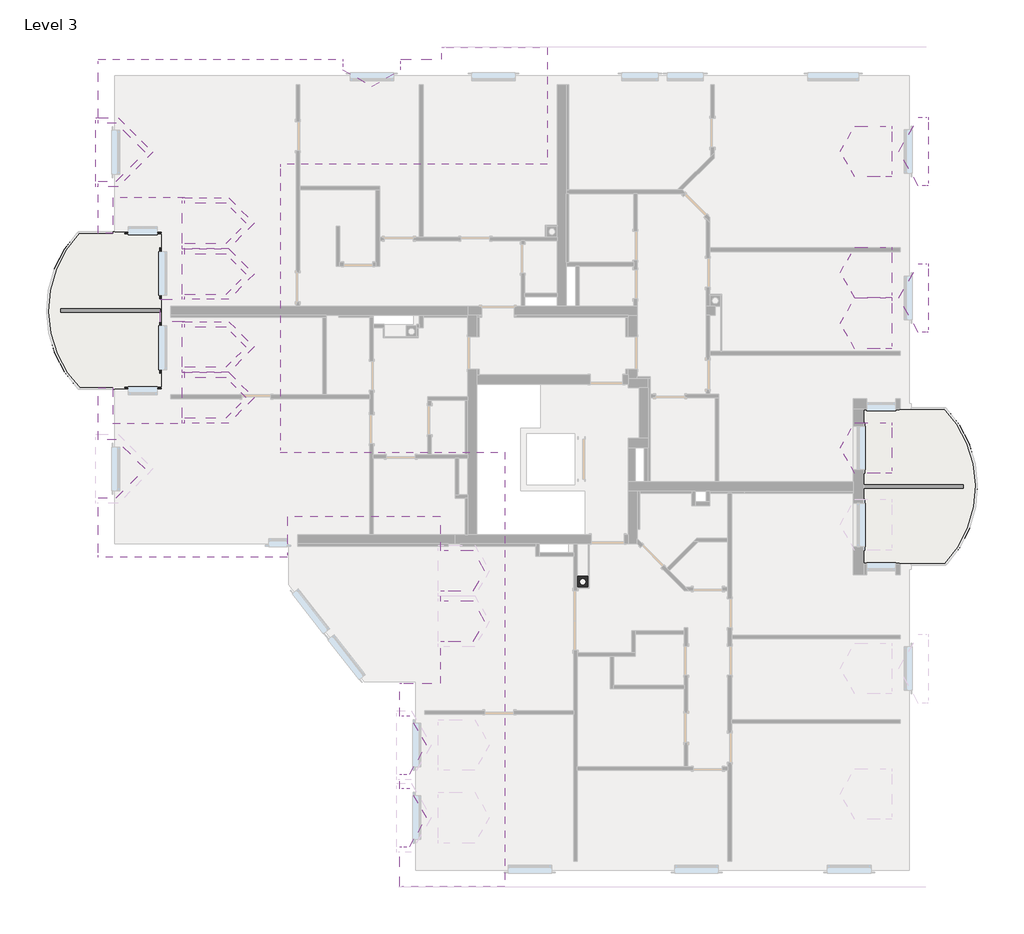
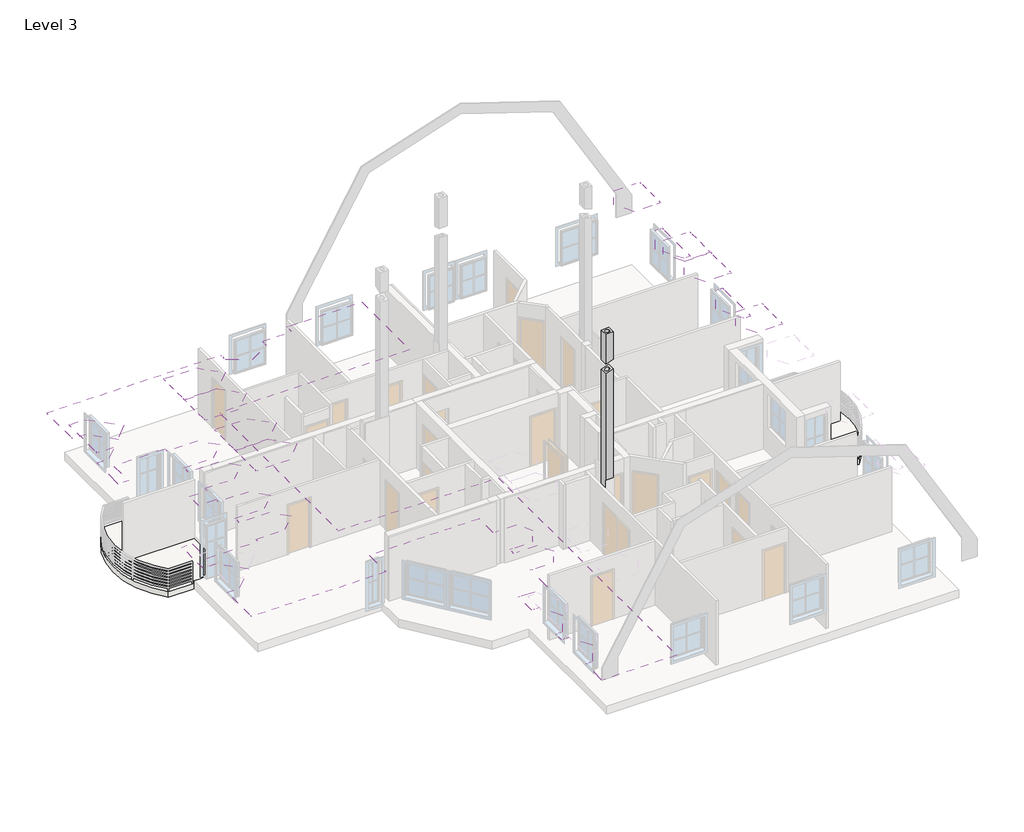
# One storey, part 4 of 5: 12 roofs, 2 slabs, 1 column.
"""IFC4 building model written with IfcOpenShell, lengths in millimetres."""

from ifc_helpers import new_model, si_unit, frame, origin, place, context, project, spatial, polyline, circle_curve, ellipse_curve, faceted_brep, element, save
from ifc_brep_helpers import plane_surface, cylinder_surface, revolved_surface, advanced_brep

model = new_model("IFC4")

# Units and contexts
model_context = context("Model", 3, world=origin())
ifc_project = project(units=[si_unit("LENGTHUNIT", "METRE", prefix="MILLI")], contexts=[model_context])

# Site, building, storey
site = spatial("IfcSite", under=ifc_project)
building = spatial("IfcBuilding", under=site)
storey = spatial("IfcBuildingStorey", under=building, Name="Level 3", Elevation=8850.0)

# Column
placement = place(None, origin())
element("IfcColumn", 1, ObjectType="AT Kamin : 300/300/160", at=placement, inside=storey, context=model_context, shape_type="AdvancedBrep", body=[
    advanced_brep(
    [(463.5618728, -2982.3709459, 17750.0), (163.5618728, -2982.3709459, 17750.0), (163.5618728, -3282.3709459, 17750.0), (463.5618728, -3282.3709459, 17750.0), (233.5618728, -3132.3709459, 17750.0), (393.5618728, -3132.3709459, 17750.0), (463.5618728, -2982.3709459, 16623.4506996), (163.5618728, -2982.3709459, 16525.9747908), (163.5618728, -3282.3709459, 16525.9747908), (463.5618728, -3282.3709459, 16623.4506996), (233.5618728, -3132.3709459, 16548.7191695), (393.5618728, -3132.3709459, 16600.7063209)],
    [
        (0, 1),
        (1, 2),
        (2, 3),
        (3, 0),
        (4, 5, circle_curve(frame((313.5618728, -3132.3709459, 17750.0), z_axis=(0.0, 0.0, -1.0), x_axis=(1.0, 0.0, 0.0)), 80.0)),
        (5, 4, circle_curve(frame((313.5618728, -3132.3709459, 17750.0), z_axis=(0.0, 0.0, -1.0), x_axis=(1.0, 0.0, 0.0)), 80.0)),
        (0, 6),
        (6, 7),
        (7, 1),
        (7, 8),
        (8, 2),
        (8, 9),
        (9, 3),
        (9, 6),
        (4, 10),
        (10, 11, ellipse_curve(frame((313.5618728, -3132.3709459, 16574.7127452), z_axis=(0.30901699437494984, 0.0, -0.9510565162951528), x_axis=(-0.9510565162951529, 0.0, -0.30901699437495)), 84.1169779, 80.0)),
        (11, 5),
        (11, 10, ellipse_curve(frame((313.5618728, -3132.3709459, 16574.7127452), z_axis=(0.30901699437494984, 0.0, -0.9510565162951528), x_axis=(-0.9510565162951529, 0.0, -0.30901699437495)), 84.1169779, 80.0)),
    ],
    [
        plane_surface(frame((163.5618728, -2982.3709459, 17750.0), z_axis=(0.0, 0.0, 1.0), x_axis=(-1.0, 0.0, 0.0))),
        plane_surface(frame((463.5618728, -2982.3709459, 17750.0), z_axis=(0.0, 1.0, 0.0), x_axis=(0.0, 0.0, -1.0))),
        plane_surface(frame((163.5618728, -2982.3709459, 17750.0), z_axis=(-1.0, 0.0, 0.0), x_axis=(0.0, 0.0, -1.0))),
        plane_surface(frame((163.5618728, -3282.3709459, 17750.0), z_axis=(0.0, -1.0, 0.0), x_axis=(0.0, 0.0, -1.0))),
        plane_surface(frame((463.5618728, -3282.3709459, 17750.0), z_axis=(1.0, 0.0, 0.0), x_axis=(0.0, 0.0, -1.0))),
        revolved_surface(polyline([(393.5618728, -3132.3709459, 16548.7191695), (393.5618728, -3132.3709459, 17750.0)]), (313.5618728, -3132.3709459, 8850.0), (0.0, 0.0, -1.0)),
        plane_surface(frame((-1841.5846805, 437.0391776, 15874.4631818), z_axis=(0.30901699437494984, 0.0, -0.9510565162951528), x_axis=(0.0, -1.0, 0.0))),
    ],
    [
        (0, [[1, 2, 3, 4], [5, 6]]),
        (1, [[-1, 7, 8, 9]]),
        (2, [[-2, -9, 10, 11]]),
        (3, [[-3, -11, 12, 13]]),
        (4, [[-4, -13, 14, -7]]),
        (5, [[-5, 15, 16, 17]]),
        (5, [[-6, -17, 18, -15]]),
        (6, [[-8, -14, -12, -10], [-16, -18]]),
    ],
),
    advanced_brep(
    [(463.5618728, -2982.3709459, 8850.0), (463.5618728, -3282.3709459, 8850.0), (163.5618728, -3282.3709459, 8850.0), (163.5618728, -2982.3709459, 8850.0), (233.5618728, -3132.3709459, 8850.0), (393.5618728, -3132.3709459, 8850.0), (463.5618728, -2982.3709459, 16244.9242989), (163.5618728, -2982.3709459, 16147.44839), (163.5618728, -3282.3709459, 16147.44839), (463.5618728, -3282.3709459, 16244.9242989), (233.5618728, -3132.3709459, 16170.1927688), (393.5618728, -3132.3709459, 16222.1799202)],
    [
        (0, 1),
        (1, 2),
        (2, 3),
        (3, 0),
        (4, 5, circle_curve(frame((313.5618728, -3132.3709459, 8850.0), z_axis=(0.0, 0.0, 1.0), x_axis=(1.0, 0.0, 0.0)), 80.0)),
        (5, 4, circle_curve(frame((313.5618728, -3132.3709459, 8850.0), z_axis=(0.0, 0.0, 1.0), x_axis=(1.0, 0.0, 0.0)), 80.0)),
        (6, 7),
        (7, 8),
        (8, 9),
        (9, 6),
        (10, 11, ellipse_curve(frame((313.5618728, -3132.3709459, 16196.1863445), z_axis=(0.30901699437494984, 0.0, -0.9510565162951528), x_axis=(-0.9510565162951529, 0.0, -0.30901699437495)), 84.1169779, 80.0)),
        (11, 10, ellipse_curve(frame((313.5618728, -3132.3709459, 16196.1863445), z_axis=(0.30901699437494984, 0.0, -0.9510565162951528), x_axis=(-0.9510565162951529, 0.0, -0.30901699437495)), 84.1169779, 80.0)),
        (3, 7),
        (6, 0),
        (2, 8),
        (1, 9),
        (5, 11),
        (10, 4),
    ],
    [
        plane_surface(frame((163.5618728, -2982.3709459, 8850.0), z_axis=(0.0, 0.0, -1.0), x_axis=(1.0, 0.0, 0.0))),
        plane_surface(frame((-1841.5846805, 437.0391776, 15495.936781), z_axis=(-0.30901699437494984, 0.0, 0.9510565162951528), x_axis=(0.0, -1.0, 0.0))),
        plane_surface(frame((463.5618728, -2982.3709459, 17750.0), z_axis=(0.0, 1.0, 0.0), x_axis=(0.0, 0.0, -1.0))),
        plane_surface(frame((163.5618728, -2982.3709459, 17750.0), z_axis=(-1.0, 0.0, 0.0), x_axis=(0.0, 0.0, -1.0))),
        plane_surface(frame((163.5618728, -3282.3709459, 17750.0), z_axis=(0.0, -1.0, 0.0), x_axis=(0.0, 0.0, -1.0))),
        plane_surface(frame((463.5618728, -3282.3709459, 17750.0), z_axis=(1.0, 0.0, 0.0), x_axis=(0.0, 0.0, -1.0))),
        revolved_surface(polyline([(393.5618728, -3132.3709459, 8850.0), (393.5618728, -3132.3709459, 16222.1799202)]), (313.5618728, -3132.3709459, 8850.0), (0.0, 0.0, -1.0)),
    ],
    [
        (0, [[1, 2, 3, 4], [5, 6]]),
        (1, [[7, 8, 9, 10], [11, 12]]),
        (2, [[-4, 13, -7, 14]]),
        (3, [[-3, 15, -8, -13]]),
        (4, [[-2, 16, -9, -15]]),
        (5, [[-1, -14, -10, -16]]),
        (6, [[-6, 17, -11, 18]]),
        (6, [[-5, -18, -12, -17]]),
    ],
),
])

# Roofs
element("IfcRoof", 2, ObjectType="Mansarde", at=placement, inside=storey, context=model_context, shape_type="Brep", body=[
    faceted_brep([(-7837.1962165, -1338.1208451, 12079.795831), (-7837.1962165, -2336.8189337, 10350.0), (-13037.1962165, -2336.8189337, 10350.0), (-8021.8499172, 558.7926023, 15365.3462993), (-8021.8499172, 437.0391776, 15154.4631818), (-1841.5846805, 437.0391776, 15154.4631818), (-3616.7447032, -1338.1208451, 12079.795831), (-4615.4427918, -5932.3709459, 10350.0), (-3598.9496412, -5932.3709459, 12110.6177824), (-3598.9496412, -4772.3709459, 12110.6177824), (-3398.9496412, -4772.3709459, 12457.027944), (-2284.1786349, -4772.3709459, 14387.8679656), (-1966.6359869, -4222.3709459, 14937.8679656), (-2284.1786349, -3672.3709459, 14387.8679656), (-3398.9496412, -3672.3709459, 12457.027944), (-3598.9496412, -3672.3709459, 12110.6177824), (-3598.9496412, -3377.3709459, 12110.6177824), (-3398.9496412, -3377.3709459, 12457.027944), (-2284.1786349, -3377.3709459, 14387.8679656), (-1966.6359869, -2827.3709459, 14937.8679656), (-2284.1786349, -2277.3709459, 14387.8679656), (-3398.9496412, -2277.3709459, 12457.027944), (-3598.9496412, -2277.3709459, 12110.6177824), (-3598.9496412, -1338.1208451, 12110.6177824), (-1841.5846805, -11532.3709459, 15154.4631818), (-4615.4427918, -11532.3709459, 10350.0), (-4615.4427918, -10432.3709452, 10350.0), (-4038.0925227, -10432.3709452, 11350.0), (-3598.9496412, -9671.7531628, 12110.6177824), (-3598.9496412, -10182.3709452, 12110.6177824), (-3398.9496412, -10182.3709452, 12457.027944), (-2284.1786349, -10182.3709452, 14387.8679656), (-1966.6359869, -9632.3709452, 14937.8679656), (-2284.1786349, -9082.3709452, 14387.8679656), (-3398.9496412, -9082.3709452, 12457.027944), (-3598.9496412, -9082.3709452, 12110.6177824), (-3598.9496412, -9592.9887276, 12110.6177824), (-4038.0925227, -8832.3709452, 11350.0), (-4615.4427918, -8832.3709452, 10350.0), (-4615.4427918, -8432.3709452, 10350.0), (-4038.0925227, -8432.3709452, 11350.0), (-3598.9496412, -7671.7531628, 12110.6177824), (-3598.9496412, -8182.3709452, 12110.6177824), (-3398.9496412, -8182.3709452, 12457.027944), (-2284.1786349, -8182.3709452, 14387.8679656), (-1966.6359869, -7632.3709452, 14937.8679656), (-2284.1786349, -7082.3709452, 14387.8679656), (-3398.9496412, -7082.3709452, 12457.027944), (-3598.9496412, -7082.3709452, 12110.6177824), (-3598.9496412, -7592.9887276, 12110.6177824), (-4038.0925227, -6832.3709452, 11350.0), (-4615.4427918, -6832.3709452, 10350.0), (-3445.4427918, 11145.8756294, 10350.0), (-671.5846805, 8372.0175181, 15154.4631818), (-8021.8499172, 8372.0175181, 15154.4631818), (-8021.8499172, 8250.2640934, 15365.3462993), (-13037.1962165, 11145.8756294, 10350.0), (-6300.2469102, 11145.8756294, 10350.0), (-6300.2469102, 10568.5253602, 11350.0), (-5500.2469102, 10106.6451449, 12150.0), (-4700.2469102, 10568.5253602, 11350.0), (-4700.2469102, 11145.8756294, 10350.0), (-7837.1962165, -2458.5723584, 10859.1168825), (-7837.1962165, -1338.1208451, 12799.795831), (-3616.7447032, -1338.1208451, 12799.795831), (-1841.5846805, 437.0391776, 15874.4631818), (-8021.8499172, 437.0391776, 15874.4631818), (-13037.1962165, -2458.5723584, 10859.1168825), (-3598.9496412, -5932.3709459, 12830.6177824), (-4737.1962165, -5932.3709459, 10859.1168825), (-4737.1962165, -6832.3709452, 10859.1168825), (-4453.7847165, -6832.3709452, 11350.0), (-3991.9045011, -7632.3709452, 12150.0), (-4453.7847165, -8432.3709452, 11350.0), (-4737.1962165, -8432.3709452, 10859.1168825), (-4737.1962165, -8832.3709452, 10859.1168825), (-4453.7847165, -8832.3709452, 11350.0), (-3991.9045011, -9632.3709452, 12150.0), (-4453.7847165, -10432.3709452, 11350.0), (-4737.1962165, -10432.3709452, 10859.1168825), (-4737.1962165, -11532.3709459, 10859.1168825), (-1841.5846805, -11532.3709459, 15874.4631818), (-3598.9496412, -1338.1208451, 12830.6177824), (-3598.9496412, -2277.3709459, 12830.6177824), (-2699.8708287, -2277.3709459, 14387.8679656), (-2382.3281807, -2827.3709459, 14937.8679656), (-2699.8708287, -3377.3709459, 14387.8679656), (-3598.9496412, -3377.3709459, 12830.6177824), (-3598.9496412, -3672.3709459, 12830.6177824), (-2699.8708287, -3672.3709459, 14387.8679656), (-2382.3281807, -4222.3709459, 14937.8679656), (-2699.8708287, -4772.3709459, 14387.8679656), (-3598.9496412, -4772.3709459, 12830.6177824), (-3598.9496412, -8182.3709452, 12830.6177824), (-3598.9496412, -7082.3709452, 12830.6177824), (-2699.8708287, -7082.3709452, 14387.8679656), (-2382.3281807, -7632.3709452, 14937.8679656), (-2699.8708287, -8182.3709452, 14387.8679656), (-3598.9496412, -10182.3709452, 12830.6177824), (-3598.9496412, -9082.3709452, 12830.6177824), (-2699.8708287, -9082.3709452, 14387.8679656), (-2382.3281807, -9632.3709452, 14937.8679656), (-2699.8708287, -10182.3709452, 14387.8679656), (-13037.1962165, 11267.6290541, 10859.1168825), (-8021.8499172, 8372.0175181, 15874.4631818), (-671.5846805, 8372.0175181, 15874.4631818), (-3567.1962165, 11267.6290541, 10859.1168825), (-4700.2469102, 11267.6290541, 10859.1168825), (-4700.2469102, 10984.217554, 11350.0), (-5500.2469102, 10522.3373387, 12150.0), (-6300.2469102, 10984.217554, 11350.0), (-6300.2469102, 11267.6290541, 10859.1168825), (-13037.1962165, 2217.6290541, 10859.1168825), (-13037.1962165, 2217.6290541, 10350.0), (-13037.1962165, 779.8653683, 10350.0), (-13037.1962165, 779.8653683, 10859.1168825), (-13037.1962165, -2458.5723584, 10350.0), (-13037.1962165, -820.1346317, 10859.1168825), (-13037.1962165, -820.1346317, 10350.0), (-7837.1962165, -2458.5723584, 10350.0), (-4737.1962165, -11532.3709459, 10350.0), (-4737.1962165, -10432.3709452, 10350.0), (-4737.1962165, -5932.3709459, 10350.0), (-4737.1962165, -6832.3709452, 10350.0), (-4737.1962165, -8432.3709452, 10350.0), (-4737.1962165, -8832.3709452, 10350.0), (-13037.1962165, 11267.6290541, 10350.0), (-6300.2469102, 11267.6290541, 10350.0), (-3567.1962165, 11267.6290541, 10350.0), (-4700.2469102, 11267.6290541, 10350.0), (-1841.5846805, -11532.3709459, 15495.936781), (-3445.4427918, 11592.3927558, 10350.0), (-671.5846805, 11592.3927558, 15154.4631818), (-3567.1962165, 11592.3927558, 10859.1168825), (-671.5846805, 11592.3927558, 15874.4631818), (-3567.1962165, 11592.3927558, 10350.0), (-671.5846805, 11592.3927558, 15495.936781), (-12637.1962165, 6467.6290541, 10750.0), (-13037.1962165, 6467.6290541, 10350.0), (-13037.1962165, 7905.3927399, 10350.0), (-12037.1962165, 7905.3927399, 11350.0), (-11237.1962165, 8705.3927399, 12150.0), (-12037.1962165, 9505.3927399, 11350.0), (-13037.1962165, 9505.3927399, 10350.0), (-12037.1962165, -820.1346317, 11350.0), (-11237.1962165, -20.1346317, 12150.0), (-12037.1962165, 779.8653683, 11350.0), (-12637.1962165, 2217.6290541, 10750.0), (-12637.1962165, 1237.6290541, 10750.0), (-10656.4352243, 1237.6290541, 12730.7609923), (-10656.4352243, 1387.6290541, 12730.7609923), (-8999.3282509, 1387.6290541, 14387.8679656), (-8449.3282509, 1937.6290541, 14937.8679656), (-8999.3282509, 2487.6290541, 14387.8679656), (-10656.4352243, 2487.6290541, 12730.7609923), (-10656.4352243, 2787.6290541, 12730.7609923), (-8999.3282509, 2787.6290541, 14387.8679656), (-8449.3282509, 3337.6290541, 14937.8679656), (-8999.3282509, 3887.6290541, 14387.8679656), (-10656.4352243, 3887.6290541, 12730.7609923), (-10656.4352243, 4037.6290541, 12730.7609923), (-11337.1962165, 4037.6290541, 12050.0), (-11337.1962165, 4647.6290541, 12050.0), (-10656.4352243, 4647.6290541, 12730.7609923), (-10656.4352243, 4797.6290541, 12730.7609923), (-8999.3282509, 4797.6290541, 14387.8679656), (-8449.3282509, 5347.6290541, 14937.8679656), (-8999.3282509, 5897.6290541, 14387.8679656), (-10656.4352243, 5897.6290541, 12730.7609923), (-10656.4352243, 6197.6290541, 12730.7609923), (-8999.3282509, 6197.6290541, 14387.8679656), (-8449.3282509, 6747.6290541, 14937.8679656), (-8999.3282509, 7297.6290541, 14387.8679656), (-10656.4352243, 7297.6290541, 12730.7609923), (-10656.4352243, 7447.6290541, 12730.7609923), (-12637.1962165, 7447.6290541, 10750.0), (-13037.1962165, 6467.6290541, 10859.1168825), (-12637.1962165, 6467.6290541, 11259.1168825), (-12637.1962165, 7447.6290541, 11259.1168825), (-10656.4352243, 7447.6290541, 13239.8778747), (-10656.4352243, 7297.6290541, 13239.8778747), (-9508.4451333, 7297.6290541, 14387.8679656), (-8958.4451333, 6747.6290541, 14937.8679656), (-9508.4451333, 6197.6290541, 14387.8679656), (-10656.4352243, 6197.6290541, 13239.8778747), (-10656.4352243, 5897.6290541, 13239.8778747), (-9508.4451333, 5897.6290541, 14387.8679656), (-8958.4451333, 5347.6290541, 14937.8679656), (-9508.4451333, 4797.6290541, 14387.8679656), (-10656.4352243, 4797.6290541, 13239.8778747), (-10656.4352243, 4647.6290541, 13239.8778747), (-11337.1962165, 4647.6290541, 12559.1168825), (-11337.1962165, 4037.6290541, 12559.1168825), (-10656.4352243, 4037.6290541, 13239.8778747), (-10656.4352243, 3887.6290541, 13239.8778747), (-9508.4451333, 3887.6290541, 14387.8679656), (-8958.4451333, 3337.6290541, 14937.8679656), (-9508.4451333, 2787.6290541, 14387.8679656), (-10656.4352243, 2787.6290541, 13239.8778747), (-10656.4352243, 2487.6290541, 13239.8778747), (-9508.4451333, 2487.6290541, 14387.8679656), (-8958.4451333, 1937.6290541, 14937.8679656), (-9508.4451333, 1387.6290541, 14387.8679656), (-10656.4352243, 1387.6290541, 13239.8778747), (-10656.4352243, 1237.6290541, 13239.8778747), (-12637.1962165, 1237.6290541, 11259.1168825), (-12637.1962165, 2217.6290541, 11259.1168825), (-12546.313099, 779.8653683, 11350.0), (-11746.313099, -20.1346317, 12150.0), (-12546.313099, -820.1346317, 11350.0), (-13037.1962165, 9655.3927399, 10859.1168825), (-13037.1962165, 9505.3927399, 10859.1168825), (-12546.313099, 9505.3927399, 11350.0), (-11746.313099, 8705.3927399, 12150.0), (-12546.313099, 7905.3927399, 11350.0), (-13037.1962165, 7905.3927399, 10859.1168825), (-13037.1962165, 7755.3927399, 10859.1168825), (-3598.9496412, -7632.3709452, 12150.0), (-3598.9496412, -9632.3709452, 12150.0), (-671.5846805, 8372.0175181, 15495.936781), (-8021.8499172, 8372.0175181, 15495.936781), (-8021.8499172, 437.0391776, 15495.936781), (-1841.5846805, 437.0391776, 15495.936781)], [[[0, 1, 2, 3, 4, 5, 6]], [[7, 8, 9, 10, 11, 12, 13, 14, 15, 16, 17, 18, 19, 20, 21, 22, 23, 6, 5, 24, 25, 26, 27, 28, 29, 30, 31, 32, 33, 34, 35, 36, 37, 38, 39, 40, 41, 42, 43, 44, 45, 46, 47, 48, 49, 50, 51]], [[52, 53, 54, 55, 56, 57, 58, 59, 60, 61]], [[62, 63, 64, 65, 66, 67]], [[68, 69, 70, 71, 72, 73, 74, 75, 76, 77, 78, 79, 80, 81, 65, 64, 82, 83, 84, 85, 86, 87, 88, 89, 90, 91, 92], [93, 94, 95, 96, 97], [98, 99, 100, 101, 102]], [[103, 104, 105, 106, 107, 108, 109, 110, 111]], [[112, 113, 114, 115]], [[116, 67, 117, 118, 2]], [[67, 116, 119, 62]], [[120, 80, 79, 121]], [[69, 122, 123, 70]], [[74, 124, 125, 75]], [[126, 103, 111, 127]], [[106, 128, 129, 107]], [[116, 2, 1, 119]], [[25, 120, 121, 26]], [[122, 7, 51, 123]], [[124, 39, 38, 125]], [[80, 120, 25, 24, 130, 81]], [[52, 131, 132, 53]], [[133, 106, 105, 134]], [[106, 133, 135, 128]], [[131, 52, 61, 129, 128, 135]], [[56, 126, 127, 57]], [[135, 133, 134, 136, 132, 131]], [[137, 138, 139, 140, 141, 142, 143, 56, 55, 3, 2, 118, 144, 145, 146, 114, 113, 147, 148, 149, 150, 151, 152, 153, 154, 155, 156, 157, 158, 159, 160, 161, 162, 163, 164, 165, 166, 167, 168, 169, 170, 171, 172, 173, 174, 175]], [[176, 177, 178, 179, 180, 181, 182, 183, 184, 185, 186, 187, 188, 189, 190, 191, 192, 193, 194, 195, 196, 197, 198, 199, 200, 201, 202, 203, 204, 205, 206, 112, 115, 207, 208, 209, 117, 67, 66, 104, 103, 210, 211, 212, 213, 214, 215, 216]], [[103, 126, 56, 143, 211, 210]], [[138, 176, 216, 215, 139]], [[176, 138, 137, 177]], [[191, 162, 161, 192]], [[113, 112, 206, 147]], [[163, 190, 189, 164]], [[179, 174, 173, 180]], [[168, 185, 184, 169]], [[178, 175, 174, 179]], [[175, 178, 177, 137]], [[163, 162, 191, 190]], [[161, 160, 193, 192]], [[205, 148, 147, 206]], [[148, 205, 204, 149]], [[193, 160, 159, 194]], [[149, 204, 203, 150]], [[198, 155, 154, 199]], [[0, 63, 62, 119, 1]], [[68, 8, 7, 122, 69]], [[82, 23, 22, 83]], [[8, 68, 92, 9]], [[15, 88, 87, 16]], [[23, 82, 64, 63, 0, 6]], [[94, 48, 47, 46, 95]], [[48, 94, 93, 42, 41, 217, 49]], [[42, 93, 97, 44, 43]], [[99, 35, 34, 33, 100]], [[35, 99, 98, 29, 28, 218, 36]], [[29, 98, 102, 31, 30]], [[53, 219, 105, 104, 220, 54]], [[3, 55, 54, 220, 104, 66, 221, 4]], [[65, 222, 5, 4, 221, 66]], [[5, 222, 65, 81, 130, 24]], [[105, 219, 53, 132, 136, 134]], [[142, 212, 211, 143]], [[212, 142, 141, 213]], [[213, 141, 140, 214]], [[214, 140, 139, 215]], [[146, 207, 115, 114]], [[207, 146, 145, 208]], [[208, 145, 144, 209]], [[209, 144, 118, 117]], [[50, 71, 70, 123, 51]], [[71, 50, 49, 217, 72]], [[40, 73, 72, 217, 41]], [[73, 40, 39, 124, 74]], [[37, 76, 75, 125, 38]], [[76, 37, 36, 218, 77]], [[27, 78, 77, 218, 28]], [[78, 27, 26, 121, 79]], [[167, 186, 185, 168]], [[186, 167, 166, 187]], [[187, 166, 165, 188]], [[188, 165, 164, 189]], [[172, 181, 180, 173]], [[181, 172, 171, 182]], [[182, 171, 170, 183]], [[183, 170, 169, 184]], [[158, 195, 194, 159]], [[195, 158, 157, 196]], [[196, 157, 156, 197]], [[197, 156, 155, 198]], [[153, 200, 199, 154]], [[200, 153, 152, 201]], [[201, 152, 151, 202]], [[202, 151, 150, 203]], [[13, 89, 88, 15, 14]], [[89, 13, 12, 90]], [[90, 12, 11, 91]], [[91, 11, 10, 9, 92]], [[20, 84, 83, 22, 21]], [[84, 20, 19, 85]], [[85, 19, 18, 86]], [[86, 18, 17, 16, 87]], [[95, 46, 45, 96]], [[96, 45, 44, 97]], [[100, 33, 32, 101]], [[101, 32, 31, 102]], [[60, 108, 107, 129, 61]], [[108, 60, 59, 109]], [[109, 59, 58, 110]], [[110, 58, 57, 127, 111]]]),
    faceted_brep([(8757.3155772, 9175.6927772, 12091.5566597), (8557.3155772, 9175.6927772, 12437.9668213), (8557.3155772, 9275.6927772, 12437.9668213), (7431.5396266, 9275.6927772, 14387.8679656), (7113.9969785, 8725.6927772, 14937.8679656), (7431.5396266, 8175.6927772, 14387.8679656), (8557.3155772, 8175.6927772, 12437.9668213), (8557.3155772, 8275.6927772, 12437.9668213), (8757.3155772, 8275.6927772, 12091.5566597), (8757.3155772, 8667.2494369, 12091.5566597), (9185.4535143, 7925.6927772, 11350.0), (9762.8037835, 7925.6927772, 10350.0), (9762.8037835, 5488.4530256, 10350.0), (9185.4535143, 5488.4530256, 11350.0), (8723.5732989, 4688.4530256, 12150.0), (9185.4535143, 3888.4530256, 11350.0), (9762.8037835, 3888.4530256, 10350.0), (9762.8037835, 1614.1761086, 10350.0), (9132.8037835, 1614.1761086, 11441.1920088), (9132.8037835, -2628.9180005, 11441.1920088), (9762.8037835, -2628.9180005, 10350.0), (9762.8037835, -4724.0530367, 10350.0), (9185.4535143, -4724.0530367, 11350.0), (8757.3155772, -5465.6096965, 12091.5566597), (8757.3155772, -4974.0530367, 12091.5566597), (7431.5396266, -4974.0530367, 14387.8679656), (7113.9969785, -5524.0530367, 14937.8679656), (7431.5396266, -6074.0530367, 14387.8679656), (8757.3155772, -6074.0530367, 12091.5566597), (8757.3155772, -5582.496377, 12091.5566597), (9185.4535143, -6324.0530367, 11350.0), (9762.8037835, -6324.0530367, 10350.0), (9762.8037835, -11532.3709459, 10350.0), (6985.5802922, -11532.3709459, 15160.2921908), (6985.5802922, 11592.3927558, 15160.2921908), (9762.8037835, 11592.3927558, 10350.0), (9762.8037835, 9525.6927772, 10350.0), (9185.4535143, 9525.6927772, 11350.0), (8757.3155772, 8784.1361174, 12091.5566597), (7431.5396266, -9532.3709459, 14387.8679656), (8757.3155772, -9532.3709459, 12091.5566597), (8757.3155772, -8432.3709459, 12091.5566597), (7431.5396266, -8432.3709459, 14387.8679656), (7113.9969785, -8982.3709459, 14937.8679656), (7431.5396266, -2113.5367865, 14387.8679656), (8757.3155772, -2113.5367865, 12091.5566597), (8757.3155772, -1013.5367865, 12091.5566597), (7431.5396266, -1013.5367865, 14387.8679656), (7113.9969785, -1563.5367865, 14937.8679656), (7431.5396266, 5.9947187, 14387.8679656), (8757.3155772, 5.9947187, 12091.5566597), (8757.3155772, 1105.9947187, 12091.5566597), (7431.5396266, 1105.9947187, 14387.8679656), (7113.9969785, 555.9947187, 14937.8679656), (7431.5396266, 3438.4530256, 14387.8679656), (8757.3155772, 3438.4530256, 12091.5566597), (8757.3155772, 4538.4530256, 12091.5566597), (7431.5396266, 4538.4530256, 14387.8679656), (7113.9969785, 3988.4530256, 14937.8679656), (7431.5396266, 4838.4530256, 14387.8679656), (8757.3155772, 4838.4530256, 12091.5566597), (8757.3155772, 5938.4530256, 12091.5566597), (7431.5396266, 5938.4530256, 14387.8679656), (7113.9969785, 5388.4530256, 14937.8679656), (9762.8037835, 11592.3927558, 11070.0), (6985.5802922, 11592.3927558, 15880.2921908), (6985.5802922, -11532.3709459, 15880.2921908), (9762.8037835, -11532.3709459, 11070.0), (9762.8037835, -6324.0530367, 11070.0), (9601.1457081, -6324.0530367, 11350.0), (9139.2654927, -5524.0530367, 12150.0), (9601.1457081, -4724.0530367, 11350.0), (9762.8037835, -4724.0530367, 11070.0), (9762.8037835, -2628.9180005, 11070.0), (9132.8037835, -2628.9180005, 12161.1920088), (9132.8037835, 1614.1761086, 12161.1920088), (9762.8037835, 1614.1761086, 11070.0), (9762.8037835, 3888.4530256, 11070.0), (9601.1457081, 3888.4530256, 11350.0), (9139.2654927, 4688.4530256, 12150.0), (9601.1457081, 5488.4530256, 11350.0), (9762.8037835, 5488.4530256, 11070.0), (9762.8037835, 7925.6927772, 11070.0), (9601.1457081, 7925.6927772, 11350.0), (9139.2654927, 8725.6927772, 12150.0), (9601.1457081, 9525.6927772, 11350.0), (9762.8037835, 9525.6927772, 11070.0), (8557.3155772, 9175.6927772, 13157.9668213), (8757.3155772, 9175.6927772, 12811.5566597), (8757.3155772, 8275.6927772, 12811.5566597), (8557.3155772, 8275.6927772, 13157.9668213), (8557.3155772, 8175.6927772, 13157.9668213), (7847.2318204, 8175.6927772, 14387.8679656), (7529.6891723, 8725.6927772, 14937.8679656), (7847.2318204, 9275.6927772, 14387.8679656), (8557.3155772, 9275.6927772, 13157.9668213), (8757.3155772, -9532.3709459, 12811.5566597), (7847.2318204, -9532.3709459, 14387.8679656), (7529.6891723, -8982.3709459, 14937.8679656), (7847.2318204, -8432.3709459, 14387.8679656), (8757.3155772, -8432.3709459, 12811.5566597), (8757.3155772, -6074.0530367, 12811.5566597), (7847.2318204, -6074.0530367, 14387.8679656), (7529.6891723, -5524.0530367, 14937.8679656), (7847.2318204, -4974.0530367, 14387.8679656), (8757.3155772, -4974.0530367, 12811.5566597), (8757.3155772, -2113.5367865, 12811.5566597), (7847.2318204, -2113.5367865, 14387.8679656), (7529.6891723, -1563.5367865, 14937.8679656), (7847.2318204, -1013.5367865, 14387.8679656), (8757.3155772, -1013.5367865, 12811.5566597), (8757.3155772, 5.9947187, 12811.5566597), (7847.2318204, 5.9947187, 14387.8679656), (7529.6891723, 555.9947187, 14937.8679656), (7847.2318204, 1105.9947187, 14387.8679656), (8757.3155772, 1105.9947187, 12811.5566597), (8757.3155772, 3438.4530256, 12811.5566597), (7847.2318204, 3438.4530256, 14387.8679656), (7529.6891723, 3988.4530256, 14937.8679656), (7847.2318204, 4538.4530256, 14387.8679656), (8757.3155772, 4538.4530256, 12811.5566597), (8757.3155772, 4838.4530256, 12811.5566597), (7847.2318204, 4838.4530256, 14387.8679656), (7529.6891723, 5388.4530256, 14937.8679656), (7847.2318204, 5938.4530256, 14387.8679656), (8757.3155772, 5938.4530256, 12811.5566597), (6985.5802922, -11532.3709459, 15874.4631818), (6985.5802922, -11532.3709459, 15495.936781), (6985.5802922, 11592.3927558, 15495.936781), (6985.5802922, 11592.3927558, 15874.4631818), (8757.3155772, -5524.0530367, 12150.0), (8757.3155772, 8725.6927772, 12150.0)], [[[0, 1, 2, 3, 4, 5, 6, 7, 8, 9, 10, 11, 12, 13, 14, 15, 16, 17, 18, 19, 20, 21, 22, 23, 24, 25, 26, 27, 28, 29, 30, 31, 32, 33, 34, 35, 36, 37, 38], [39, 40, 41, 42, 43], [44, 45, 46, 47, 48], [49, 50, 51, 52, 53], [54, 55, 56, 57, 58], [59, 60, 61, 62, 63]], [[64, 65, 66, 67, 68, 69, 70, 71, 72, 73, 74, 75, 76, 77, 78, 79, 80, 81, 82, 83, 84, 85, 86], [87, 88, 89, 90, 91, 92, 93, 94, 95], [96, 97, 98, 99, 100], [101, 102, 103, 104, 105], [106, 107, 108, 109, 110], [111, 112, 113, 114, 115], [116, 117, 118, 119, 120], [121, 122, 123, 124, 125]], [[35, 64, 86, 36]], [[67, 32, 31, 68]], [[20, 73, 72, 21]], [[76, 17, 16, 77]], [[81, 12, 11, 82]], [[32, 67, 66, 126, 127, 33]], [[64, 35, 34, 128, 129, 65]], [[40, 96, 100, 41]], [[28, 101, 105, 24, 23, 130, 29]], [[50, 111, 115, 51]], [[45, 106, 110, 46]], [[60, 121, 125, 61]], [[55, 116, 120, 56]], [[0, 88, 87, 1]], [[89, 8, 7, 90]], [[88, 0, 38, 131, 9, 8, 89]], [[34, 33, 127, 126, 66, 65, 129, 128]], [[18, 75, 74, 19]], [[19, 74, 73, 20]], [[75, 18, 17, 76]], [[96, 40, 39, 97]], [[97, 39, 43, 98]], [[98, 43, 42, 99]], [[41, 100, 99, 42]], [[101, 28, 27, 102]], [[102, 27, 26, 103]], [[103, 26, 25, 104]], [[24, 105, 104, 25]], [[106, 45, 44, 107]], [[107, 44, 48, 108]], [[108, 48, 47, 109]], [[46, 110, 109, 47]], [[111, 50, 49, 112]], [[112, 49, 53, 113]], [[113, 53, 52, 114]], [[51, 115, 114, 52]], [[116, 55, 54, 117]], [[117, 54, 58, 118]], [[118, 58, 57, 119]], [[56, 120, 119, 57]], [[121, 60, 59, 122]], [[122, 59, 63, 123]], [[123, 63, 62, 124]], [[61, 125, 124, 62]], [[6, 91, 90, 7]], [[95, 2, 1, 87]], [[91, 6, 5, 92]], [[92, 5, 4, 93]], [[93, 4, 3, 94]], [[2, 95, 94, 3]], [[30, 69, 68, 31]], [[69, 30, 29, 130, 70]], [[22, 71, 70, 130, 23]], [[71, 22, 21, 72]], [[15, 78, 77, 16]], [[78, 15, 14, 79]], [[79, 14, 13, 80]], [[80, 13, 12, 81]], [[10, 83, 82, 11]], [[83, 10, 9, 131, 84]], [[37, 85, 84, 131, 38]], [[85, 37, 36, 86]]]),
])
element("IfcRoof", 3, ObjectType="Dormer", at=placement, inside=storey, context=model_context, shape_type="Brep", body=[
    faceted_brep([(-13107.1962165, 7755.3927399, 10859.1168825), (-13107.1962165, 7755.3927399, 11412.1320344), (-13107.1962165, 8705.3927399, 12362.1320344), (-13107.1962165, 9655.3927399, 11412.1320344), (-13107.1962165, 9655.3927399, 10859.1168825), (-13107.1962165, 9505.3927399, 10859.1168825), (-13107.1962165, 9505.3927399, 11350.0), (-13107.1962165, 8705.3927399, 12150.0), (-13107.1962165, 7905.3927399, 11350.0), (-13107.1962165, 7905.3927399, 10859.1168825), (-13037.1962165, 7755.3927399, 10859.1168825), (-12484.1810646, 7755.3927399, 11412.1320344), (-11534.1810646, 8705.3927399, 12362.1320344), (-12484.1810646, 9655.3927399, 11412.1320344), (-13037.1962165, 9655.3927399, 10859.1168825), (-13037.1962165, 9505.3927399, 10859.1168825), (-12546.313099, 9505.3927399, 11350.0), (-11746.313099, 8705.3927399, 12150.0), (-12546.313099, 7905.3927399, 11350.0), (-13037.1962165, 7905.3927399, 10859.1168825)], [[[0, 1, 2, 3, 4, 5, 6, 7, 8, 9]], [[1, 0, 10, 11]], [[2, 1, 11, 12]], [[3, 2, 12, 13]], [[4, 3, 13, 14]], [[5, 4, 14, 15]], [[6, 5, 15, 16]], [[7, 6, 16, 17]], [[8, 7, 17, 18]], [[9, 8, 18, 19]], [[0, 9, 19, 10]], [[10, 19, 18, 17, 16, 15, 14, 13, 12, 11]]]),
])
element("IfcRoof", 4, ObjectType="Dormer", at=placement, inside=storey, context=model_context, shape_type="Brep", body=[
    faceted_brep([(-10726.4352243, 4647.6290541, 13245.9738747), (-10726.4352243, 4647.6290541, 14450.0), (-10726.4352243, 5347.6290541, 15150.0), (-10726.4352243, 6047.6290541, 14450.0), (-10726.4352243, 6047.6290541, 13239.8778747), (-10726.4352243, 5897.6290541, 13239.8778747), (-10726.4352243, 5897.6290541, 14387.8679656), (-10726.4352243, 5347.6290541, 14937.8679656), (-10726.4352243, 4797.6290541, 14387.8679656), (-10726.4352243, 4797.6290541, 13245.9738747), (-10650.3392243, 4647.6290541, 13245.9738747), (-9446.313099, 4647.6290541, 14450.0), (-8746.313099, 5347.6290541, 15150.0), (-9446.313099, 6047.6290541, 14450.0), (-10656.4352243, 6047.6290541, 13239.8778747), (-10656.4352243, 5897.6290541, 13239.8778747), (-9508.4451333, 5897.6290541, 14387.8679656), (-8958.4451333, 5347.6290541, 14937.8679656), (-9508.4451333, 4797.6290541, 14387.8679656), (-10650.3392243, 4797.6290541, 13245.9738747)], [[[0, 1, 2, 3, 4, 5, 6, 7, 8, 9]], [[1, 0, 10, 11]], [[2, 1, 11, 12]], [[3, 2, 12, 13]], [[4, 3, 13, 14]], [[5, 4, 14, 15]], [[6, 5, 15, 16]], [[7, 6, 16, 17]], [[8, 7, 17, 18]], [[9, 8, 18, 19]], [[0, 9, 19, 10]], [[10, 19, 18, 17, 16, 15, 14, 13, 12, 11]]]),
])
element("IfcRoof", 5, ObjectType="Dormer", at=placement, inside=storey, context=model_context, shape_type="Brep", body=[
    faceted_brep([(-10726.4352243, 6047.6290541, 13245.9738747), (-10726.4352243, 6047.6290541, 14450.0), (-10726.4352243, 6747.6290541, 15150.0), (-10726.4352243, 7447.6290541, 14450.0), (-10726.4352243, 7447.6290541, 13239.8778747), (-10726.4352243, 7297.6290541, 13239.8778747), (-10726.4352243, 7297.6290541, 14387.8679656), (-10726.4352243, 6747.6290541, 14937.8679656), (-10726.4352243, 6197.6290541, 14387.8679656), (-10726.4352243, 6197.6290541, 13245.9738747), (-10650.3392243, 6047.6290541, 13245.9738747), (-9446.313099, 6047.6290541, 14450.0), (-8746.313099, 6747.6290541, 15150.0), (-9446.313099, 7447.6290541, 14450.0), (-10656.4352243, 7447.6290541, 13239.8778747), (-10656.4352243, 7297.6290541, 13239.8778747), (-9508.4451333, 7297.6290541, 14387.8679656), (-8958.4451333, 6747.6290541, 14937.8679656), (-9508.4451333, 6197.6290541, 14387.8679656), (-10650.3392243, 6197.6290541, 13245.9738747)], [[[0, 1, 2, 3, 4, 5, 6, 7, 8, 9]], [[1, 0, 10, 11]], [[2, 1, 11, 12]], [[3, 2, 12, 13]], [[4, 3, 13, 14]], [[5, 4, 14, 15]], [[6, 5, 15, 16]], [[7, 6, 16, 17]], [[8, 7, 17, 18]], [[9, 8, 18, 19]], [[0, 9, 19, 10]], [[10, 19, 18, 17, 16, 15, 14, 13, 12, 11]]]),
])
element("IfcRoof", 6, ObjectType="Dormer", at=placement, inside=storey, context=model_context, shape_type="Brep", body=[
    faceted_brep([(-10726.4352243, 4037.6290541, 13245.9738747), (-10726.4352243, 3887.6290541, 13245.9738747), (-10726.4352243, 3887.6290541, 14387.8679656), (-10726.4352243, 3337.6290541, 14937.8679656), (-10726.4352243, 2787.6290541, 14387.8679656), (-10726.4352243, 2787.6290541, 13239.8778747), (-10726.4352243, 2637.6290541, 13239.8778747), (-10726.4352243, 2637.6290541, 14450.0), (-10726.4352243, 3337.6290541, 15150.0), (-10726.4352243, 4037.6290541, 14450.0), (-9446.313099, 4037.6290541, 14450.0), (-10650.3392243, 4037.6290541, 13245.9738747), (-8746.313099, 3337.6290541, 15150.0), (-9446.313099, 2637.6290541, 14450.0), (-10656.4352243, 2637.6290541, 13239.8778747), (-10656.4352243, 2787.6290541, 13239.8778747), (-9508.4451333, 2787.6290541, 14387.8679656), (-8958.4451333, 3337.6290541, 14937.8679656), (-9508.4451333, 3887.6290541, 14387.8679656), (-10650.3392243, 3887.6290541, 13245.9738747)], [[[0, 1, 2, 3, 4, 5, 6, 7, 8, 9]], [[10, 11, 0, 9]], [[12, 10, 9, 8]], [[13, 12, 8, 7]], [[14, 13, 7, 6]], [[15, 14, 6, 5]], [[16, 15, 5, 4]], [[17, 16, 4, 3]], [[18, 17, 3, 2]], [[19, 18, 2, 1]], [[11, 19, 1, 0]], [[11, 10, 12, 13, 14, 15, 16, 17, 18, 19]]]),
])
element("IfcRoof", 7, ObjectType="Dormer", at=placement, inside=storey, context=model_context, shape_type="Brep", body=[
    faceted_brep([(-10726.4352243, 2637.6290541, 13245.9738747), (-10726.4352243, 2487.6290541, 13245.9738747), (-10726.4352243, 2487.6290541, 14387.8679656), (-10726.4352243, 1937.6290541, 14937.8679656), (-10726.4352243, 1387.6290541, 14387.8679656), (-10726.4352243, 1387.6290541, 13239.8778747), (-10726.4352243, 1237.6290541, 13239.8778747), (-10726.4352243, 1237.6290541, 14450.0), (-10726.4352243, 1937.6290541, 15150.0), (-10726.4352243, 2637.6290541, 14450.0), (-9446.313099, 2637.6290541, 14450.0), (-10650.3392243, 2637.6290541, 13245.9738747), (-8746.313099, 1937.6290541, 15150.0), (-9446.313099, 1237.6290541, 14450.0), (-10656.4352243, 1237.6290541, 13239.8778747), (-10656.4352243, 1387.6290541, 13239.8778747), (-9508.4451333, 1387.6290541, 14387.8679656), (-8958.4451333, 1937.6290541, 14937.8679656), (-9508.4451333, 2487.6290541, 14387.8679656), (-10650.3392243, 2487.6290541, 13245.9738747)], [[[0, 1, 2, 3, 4, 5, 6, 7, 8, 9]], [[10, 11, 0, 9]], [[12, 10, 9, 8]], [[13, 12, 8, 7]], [[14, 13, 7, 6]], [[15, 14, 6, 5]], [[16, 15, 5, 4]], [[17, 16, 4, 3]], [[18, 17, 3, 2]], [[19, 18, 2, 1]], [[11, 19, 1, 0]], [[11, 10, 12, 13, 14, 15, 16, 17, 18, 19]]]),
])
element("IfcRoof", 8, ObjectType="Dormer", at=placement, inside=storey, context=model_context, shape_type="Brep", body=[
    faceted_brep([(8827.3155772, -144.0052813, 13245.9738747), (8827.3155772, 5.9947187, 13245.9738747), (8827.3155772, 5.9947187, 14387.8679656), (8827.3155772, 555.9947187, 14937.8679656), (8827.3155772, 1105.9947187, 14387.8679656), (8827.3155772, 1105.9947187, 13239.8778747), (8827.3155772, 1255.9947187, 13239.8778747), (8827.3155772, 1255.9947187, 14450.0), (8827.3155772, 555.9947187, 15150.0), (8827.3155772, -144.0052813, 14450.0), (7811.3598736, -144.0052813, 14450.0), (8506.5046811, -144.0052813, 13245.9738747), (7407.2146852, 555.9947187, 15150.0), (7811.3598736, 1255.9947187, 14450.0), (8510.0242084, 1255.9947187, 13239.8778747), (8510.0242084, 1105.9947187, 13239.8778747), (7847.2318204, 1105.9947187, 14387.8679656), (7529.6891723, 555.9947187, 14937.8679656), (7847.2318204, 5.9947187, 14387.8679656), (8506.5046811, 5.9947187, 13245.9738747)], [[[0, 1, 2, 3, 4, 5, 6, 7, 8, 9]], [[10, 11, 0, 9]], [[12, 10, 9, 8]], [[13, 12, 8, 7]], [[14, 13, 7, 6]], [[15, 14, 6, 5]], [[16, 15, 5, 4]], [[17, 16, 4, 3]], [[18, 17, 3, 2]], [[19, 18, 2, 1]], [[11, 19, 1, 0]], [[11, 10, 12, 13, 14, 15, 16, 17, 18, 19]]]),
])
element("IfcRoof", 9, ObjectType="Dormer", at=placement, inside=storey, context=model_context, shape_type="Brep", body=[
    faceted_brep([(8827.3155772, 4688.4530256, 13245.9738747), (8827.3155772, 4838.4530256, 13245.9738747), (8827.3155772, 4838.4530256, 14387.8679656), (8827.3155772, 5388.4530256, 14937.8679656), (8827.3155772, 5938.4530256, 14387.8679656), (8827.3155772, 5938.4530256, 13239.8778747), (8827.3155772, 6088.4530256, 13239.8778747), (8827.3155772, 6088.4530256, 14450.0), (8827.3155772, 5388.4530256, 15150.0), (8827.3155772, 4688.4530256, 14450.0), (7811.3598736, 4688.4530256, 14450.0), (8506.5046811, 4688.4530256, 13245.9738747), (7407.2146852, 5388.4530256, 15150.0), (7811.3598736, 6088.4530256, 14450.0), (8510.0242084, 6088.4530256, 13239.8778747), (8510.0242084, 5938.4530256, 13239.8778747), (7847.2318204, 5938.4530256, 14387.8679656), (7529.6891723, 5388.4530256, 14937.8679656), (7847.2318204, 4838.4530256, 14387.8679656), (8506.5046811, 4838.4530256, 13245.9738747)], [[[0, 1, 2, 3, 4, 5, 6, 7, 8, 9]], [[10, 11, 0, 9]], [[12, 10, 9, 8]], [[13, 12, 8, 7]], [[14, 13, 7, 6]], [[15, 14, 6, 5]], [[16, 15, 5, 4]], [[17, 16, 4, 3]], [[18, 17, 3, 2]], [[19, 18, 2, 1]], [[11, 19, 1, 0]], [[11, 10, 12, 13, 14, 15, 16, 17, 18, 19]]]),
])
element("IfcRoof", 10, ObjectType="Dormer", at=placement, inside=storey, context=model_context, shape_type="Brep", body=[
    faceted_brep([(8827.3155772, 3288.4530256, 13245.9738747), (8827.3155772, 3438.4530256, 13245.9738747), (8827.3155772, 3438.4530256, 14387.8679656), (8827.3155772, 3988.4530256, 14937.8679656), (8827.3155772, 4538.4530256, 14387.8679656), (8827.3155772, 4538.4530256, 13239.8778747), (8827.3155772, 4688.4530256, 13239.8778747), (8827.3155772, 4688.4530256, 14450.0), (8827.3155772, 3988.4530256, 15150.0), (8827.3155772, 3288.4530256, 14450.0), (7811.3598736, 3288.4530256, 14450.0), (8506.5046811, 3288.4530256, 13245.9738747), (7407.2146852, 3988.4530256, 15150.0), (7811.3598736, 4688.4530256, 14450.0), (8510.0242084, 4688.4530256, 13239.8778747), (8510.0242084, 4538.4530256, 13239.8778747), (7847.2318204, 4538.4530256, 14387.8679656), (7529.6891723, 3988.4530256, 14937.8679656), (7847.2318204, 3438.4530256, 14387.8679656), (8506.5046811, 3438.4530256, 13245.9738747)], [[[0, 1, 2, 3, 4, 5, 6, 7, 8, 9]], [[10, 11, 0, 9]], [[12, 10, 9, 8]], [[13, 12, 8, 7]], [[14, 13, 7, 6]], [[15, 14, 6, 5]], [[16, 15, 5, 4]], [[17, 16, 4, 3]], [[18, 17, 3, 2]], [[19, 18, 2, 1]], [[11, 19, 1, 0]], [[11, 10, 12, 13, 14, 15, 16, 17, 18, 19]]]),
])
element("IfcRoof", 11, ObjectType="Dormer", at=placement, inside=storey, context=model_context, shape_type="Brep", body=[
    faceted_brep([(8827.3155772, 8025.6927772, 13245.9738747), (8827.3155772, 8175.6927772, 13245.9738747), (8827.3155772, 8175.6927772, 14387.8679656), (8827.3155772, 8725.6927772, 14937.8679656), (8827.3155772, 9275.6927772, 14387.8679656), (8827.3155772, 9275.6927772, 13239.8778747), (8827.3155772, 9425.6927772, 13239.8778747), (8827.3155772, 9425.6927772, 14450.0), (8827.3155772, 8725.6927772, 15150.0), (8827.3155772, 8025.6927772, 14450.0), (7811.3598736, 8025.6927772, 14450.0), (8506.5046811, 8025.6927772, 13245.9738747), (7407.2146852, 8725.6927772, 15150.0), (7811.3598736, 9425.6927772, 14450.0), (8510.0242084, 9425.6927772, 13239.8778747), (8510.0242084, 9275.6927772, 13239.8778747), (7847.2318204, 9275.6927772, 14387.8679656), (7529.6891723, 8725.6927772, 14937.8679656), (7847.2318204, 8175.6927772, 14387.8679656), (8506.5046811, 8175.6927772, 13245.9738747)], [[[0, 1, 2, 3, 4, 5, 6, 7, 8, 9]], [[10, 11, 0, 9]], [[12, 10, 9, 8]], [[13, 12, 8, 7]], [[14, 13, 7, 6]], [[15, 14, 6, 5]], [[16, 15, 5, 4]], [[17, 16, 4, 3]], [[18, 17, 3, 2]], [[19, 18, 2, 1]], [[11, 19, 1, 0]], [[11, 10, 12, 13, 14, 15, 16, 17, 18, 19]]]),
])
element("IfcRoof", 12, ObjectType="Dormer", at=placement, inside=storey, context=model_context, shape_type="Brep", body=[
    faceted_brep([(9832.8037835, 3738.4530256, 10859.1168825), (9832.8037835, 3888.4530256, 10859.1168825), (9832.8037835, 3888.4530256, 11350.0), (9832.8037835, 4688.4530256, 12150.0), (9832.8037835, 5488.4530256, 11350.0), (9832.8037835, 5488.4530256, 10859.1168825), (9832.8037835, 5638.4530256, 10859.1168825), (9832.8037835, 5638.4530256, 11412.1320344), (9832.8037835, 4688.4530256, 12362.1320344), (9832.8037835, 3738.4530256, 11412.1320344), (9565.2737613, 3738.4530256, 11412.1320344), (9762.8037835, 3738.4530256, 11070.0), (9762.8037835, 3738.4530256, 10859.1168825), (9016.7910056, 4688.4530256, 12362.1320344), (9565.2737613, 5638.4530256, 11412.1320344), (9762.8037835, 5638.4530256, 10859.1168825), (9762.8037835, 5638.4530256, 11070.0), (9762.8037835, 5488.4530256, 10859.1168825), (9601.1457081, 5488.4530256, 11350.0), (9762.8037835, 5488.4530256, 11070.0), (9139.2654927, 4688.4530256, 12150.0), (9601.1457081, 3888.4530256, 11350.0), (9762.8037835, 3888.4530256, 10859.1168825), (9762.8037835, 3888.4530256, 11070.0)], [[[0, 1, 2, 3, 4, 5, 6, 7, 8, 9]], [[10, 11, 12, 0, 9]], [[13, 10, 9, 8]], [[14, 13, 8, 7]], [[15, 16, 14, 7, 6]], [[17, 15, 6, 5]], [[18, 19, 17, 5, 4]], [[20, 18, 4, 3]], [[21, 20, 3, 2]], [[22, 23, 21, 2, 1]], [[12, 22, 1, 0]], [[12, 11, 23, 22]], [[11, 10, 13, 14, 16, 19, 18, 20, 21, 23]], [[16, 15, 17, 19]]]),
])
element("IfcRoof", 13, ObjectType="Dormer", at=placement, inside=storey, context=model_context, shape_type="Brep", body=[
    faceted_brep([(9832.8037835, 7775.6927772, 10859.1168825), (9832.8037835, 7925.6927772, 10859.1168825), (9832.8037835, 7925.6927772, 11350.0), (9832.8037835, 8725.6927772, 12150.0), (9832.8037835, 9525.6927772, 11350.0), (9832.8037835, 9525.6927772, 10859.1168825), (9832.8037835, 9675.6927772, 10859.1168825), (9832.8037835, 9675.6927772, 11412.1320344), (9832.8037835, 8725.6927772, 12362.1320344), (9832.8037835, 7775.6927772, 11412.1320344), (9565.2737613, 7775.6927772, 11412.1320344), (9762.8037835, 7775.6927772, 11070.0), (9762.8037835, 7775.6927772, 10859.1168825), (9016.7910056, 8725.6927772, 12362.1320344), (9565.2737613, 9675.6927772, 11412.1320344), (9762.8037835, 9675.6927772, 10859.1168825), (9762.8037835, 9675.6927772, 11070.0), (9762.8037835, 9525.6927772, 10859.1168825), (9601.1457081, 9525.6927772, 11350.0), (9762.8037835, 9525.6927772, 11070.0), (9139.2654927, 8725.6927772, 12150.0), (9601.1457081, 7925.6927772, 11350.0), (9762.8037835, 7925.6927772, 10859.1168825), (9762.8037835, 7925.6927772, 11070.0)], [[[0, 1, 2, 3, 4, 5, 6, 7, 8, 9]], [[10, 11, 12, 0, 9]], [[13, 10, 9, 8]], [[14, 13, 8, 7]], [[15, 16, 14, 7, 6]], [[17, 15, 6, 5]], [[18, 19, 17, 5, 4]], [[20, 18, 4, 3]], [[21, 20, 3, 2]], [[22, 23, 21, 2, 1]], [[12, 22, 1, 0]], [[12, 11, 23, 22]], [[11, 10, 13, 14, 16, 19, 18, 20, 21, 23]], [[16, 15, 17, 19]]]),
])

# Slabs
element("IfcSlab", 14, ObjectType="Concrete", at=placement, inside=storey, context=model_context, shape_type="AdvancedBrep", body=[
    advanced_brep(
    [(-11287.1962165, 6517.6290541, 8530.0), (-11287.1962165, 2167.6290541, 8530.0), (-12587.1962165, 2167.6290541, 8530.0), (-13585.5822754, 2167.6290541, 8530.0), (-13585.5822754, 6517.6290541, 8530.0), (-12587.1962165, 6517.6290541, 8530.0), (-11287.1962165, 6517.6290541, 8750.0), (-13585.5822754, 6517.6290541, 8750.0), (-13585.5822754, 2167.6290541, 8750.0), (-11287.1962165, 2167.6290541, 8750.0)],
    [
        (0, 1),
        (1, 2),
        (2, 3),
        (3, 4, circle_curve(frame((-11337.1962165, 4342.6290541, 8530.0), z_axis=(0.0, 0.0, -1.0), x_axis=(1.0, 0.0, 0.0)), 3128.236703)),
        (4, 5),
        (5, 0),
        (6, 7),
        (7, 8, circle_curve(frame((-11337.1962165, 4342.6290541, 8750.0), z_axis=(0.0, 0.0, 1.0), x_axis=(1.0, 0.0, 0.0)), 3128.236703)),
        (8, 9),
        (9, 6),
        (0, 6),
        (9, 1),
        (8, 3),
        (7, 4),
    ],
    [
        plane_surface(frame((-11287.1962165, 6517.6290541, 8530.0), z_axis=(0.0, 0.0, -1.0), x_axis=(0.0, -1.0, 0.0))),
        plane_surface(frame((-11287.1962165, 6517.6290541, 8750.0), z_axis=(0.0, 0.0, 1.0), x_axis=(0.0, 1.0, 0.0))),
        plane_surface(frame((-11287.1962165, 6517.6290541, 8530.0), z_axis=(1.0, 0.0, 0.0), x_axis=(0.0, 0.0, 1.0))),
        plane_surface(frame((-11287.1962165, 2167.6290541, 8530.0), z_axis=(0.0, -1.0, 0.0), x_axis=(0.0, 0.0, 1.0))),
        cylinder_surface(frame((-11337.1962165, 4342.6290541, 8750.0), z_axis=(0.0, 0.0, -1.0), x_axis=(1.0, 0.0, 0.0)), 3128.236703),
        plane_surface(frame((-13585.5822754, 6517.6290541, 8530.0), z_axis=(0.0, 1.0, 0.0), x_axis=(0.0, 0.0, 1.0))),
    ],
    [
        (0, [[1, 2, 3, 4, 5, 6]]),
        (1, [[7, 8, 9, 10]]),
        (2, [[-1, 11, -10, 12]]),
        (3, [[-3, -2, -12, -9, 13]]),
        (4, [[-4, -13, -8, 14]]),
        (5, [[-6, -5, -14, -7, -11]]),
    ],
),
])
element("IfcSlab", 15, ObjectType="Concrete", at=placement, inside=storey, context=model_context, shape_type="AdvancedBrep", body=[
    advanced_brep(
    [(10311.1898424, 1667.6290541, 8530.0), (10311.1898424, -2682.3709459, 8530.0), (9362.8037835, -2682.3709459, 8530.0), (8012.8037835, -2682.3709459, 8530.0), (8012.8037835, 1667.6290541, 8530.0), (9362.8037835, 1667.6290541, 8530.0), (10311.1898424, 1667.6290541, 8750.0), (9362.8037835, 1667.6290541, 8750.0), (8012.8037835, 1667.6290541, 8750.0), (8012.8037835, -2682.3709459, 8750.0), (9362.8037835, -2682.3709459, 8750.0), (10311.1898424, -2682.3709459, 8750.0)],
    [
        (0, 1, circle_curve(frame((8062.8037835, -507.3709459, 8530.0), z_axis=(0.0, 0.0, -1.0), x_axis=(1.0, 0.0, 0.0)), 3128.236703)),
        (1, 2),
        (2, 3),
        (3, 4),
        (4, 5),
        (5, 0),
        (6, 7),
        (7, 8),
        (8, 9),
        (9, 10),
        (10, 11),
        (11, 6, circle_curve(frame((8062.8037835, -507.3709459, 8750.0), z_axis=(0.0, 0.0, 1.0), x_axis=(1.0, 0.0, 0.0)), 3128.236703)),
        (0, 6),
        (11, 1),
        (9, 3),
        (8, 4),
    ],
    [
        plane_surface(frame((11191.0404865, -507.3709459, 8530.0), z_axis=(0.0, 0.0, -1.0), x_axis=(0.0, -1.0, 0.0))),
        plane_surface(frame((11191.0404865, -507.3709459, 8750.0), z_axis=(0.0, 0.0, 1.0), x_axis=(0.0, 1.0, 0.0))),
        cylinder_surface(frame((8062.8037835, -507.3709459, 8750.0), z_axis=(0.0, 0.0, -1.0), x_axis=(1.0, 0.0, 0.0)), 3128.236703),
        plane_surface(frame((10311.1898424, -2682.3709459, 8530.0), z_axis=(0.0, -1.0, 0.0), x_axis=(0.0, 0.0, 1.0))),
        plane_surface(frame((8012.8037835, -2682.3709459, 8530.0), z_axis=(-1.0, 0.0, 0.0), x_axis=(0.0, 0.0, 1.0))),
        plane_surface(frame((8012.8037835, 1667.6290541, 8530.0), z_axis=(0.0, 1.0, 0.0), x_axis=(0.0, 0.0, 1.0))),
    ],
    [
        (0, [[1, 2, 3, 4, 5, 6]]),
        (1, [[7, 8, 9, 10, 11, 12]]),
        (2, [[-1, 13, -12, 14]]),
        (3, [[-3, -2, -14, -11, -10, 15]]),
        (4, [[-4, -15, -9, 16]]),
        (5, [[-6, -5, -16, -8, -7, -13]]),
    ],
),
])

save(model, "model.ifc")
